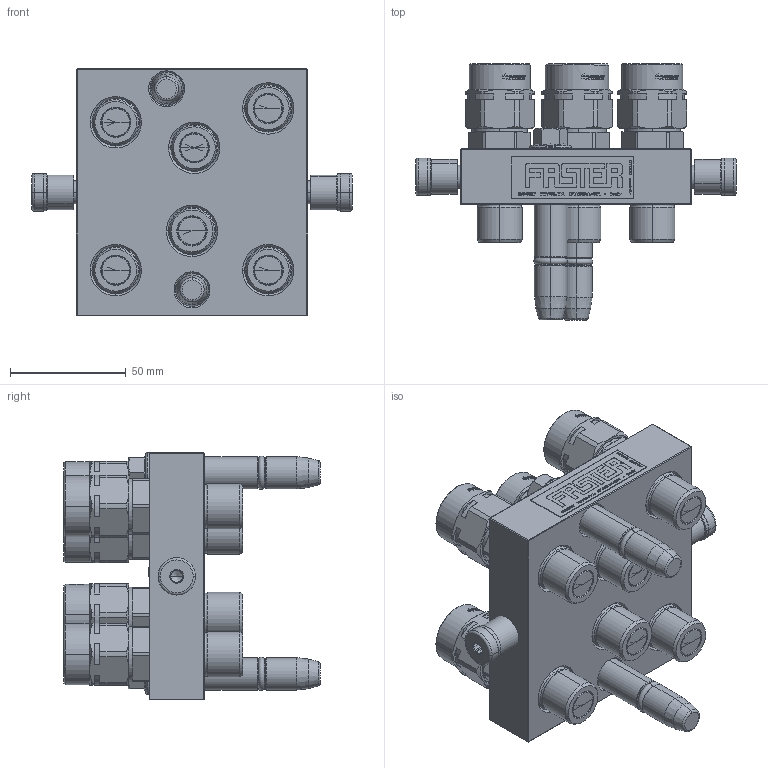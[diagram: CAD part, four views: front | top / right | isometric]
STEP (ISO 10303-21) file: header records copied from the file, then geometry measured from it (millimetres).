
FILE_DESCRIPTION((''),'2;1');
FILE_NAME('2P5066-6-38G_MC','2011-11-03T',('mchiodi'),(''),'PRO/ENGINEER BY PARAMETRIC TECHNOLOGY CORPORATION, 2011180','PRO/ENGINEER BY PARAMETRIC TECHNOLOGY CORPORATION, 2011180','');
FILE_SCHEMA(('CONFIG_CONTROL_DESIGN'));
Products named in the file (1): 2P5066-6-38G_MC
Bounding box: 138.6 x 110.8 x 107.3 mm (x, y, z)
Surface area: 118031.6 mm2 (no closed solid volume)
Topology: 0 solids, 133 shells, 1564 faces, 7163 edges, 5624 vertices
Faces by surface type: plane 689, cylinder 369, cone 338, torus 92, bspline 76
Entity records: 78568 total; most frequent: CARTESIAN_POINT 22277, DIRECTION 11229, ORIENTED_EDGE 10550, EDGE_CURVE 7135, VERTEX_POINT 5624, VECTOR 4485, LINE 4485, AXIS2_PLACEMENT_3D 3372
